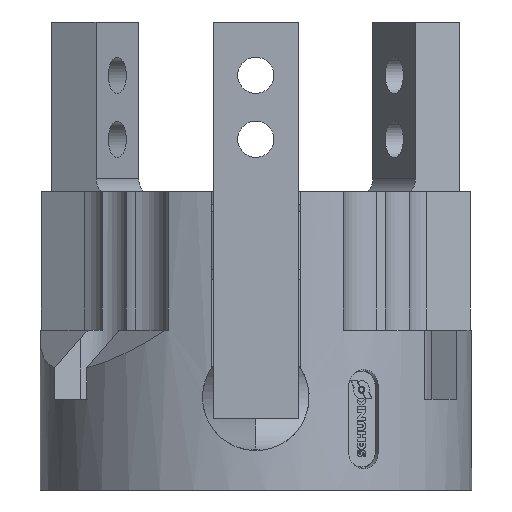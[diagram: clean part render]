
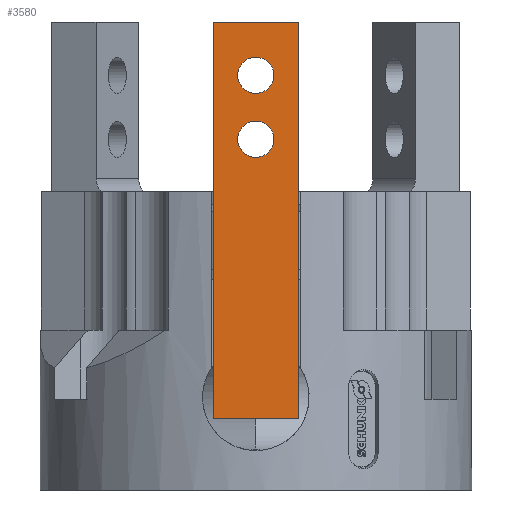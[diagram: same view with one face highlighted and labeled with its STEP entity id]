
A CAD part, left-side view. The second image highlights one B-rep face of the part: STEP entity #3580.
In plain terms, the highlighted planar face has unit normal (-1, 0, 0) as drawn and (0, -1, 0) by its records, which use the part's own axes.
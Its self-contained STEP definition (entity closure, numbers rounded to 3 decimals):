
#98=PLANE('',#4573);
#280=CIRCLE('',#4574,1.7);
#281=CIRCLE('',#4575,1.7);
#793=ORIENTED_EDGE('',*,*,#1587,.F.);
#794=ORIENTED_EDGE('',*,*,#1588,.F.);
#795=ORIENTED_EDGE('',*,*,#1589,.T.);
#796=ORIENTED_EDGE('',*,*,#1590,.F.);
#797=ORIENTED_EDGE('',*,*,#1591,.F.);
#798=ORIENTED_EDGE('',*,*,#1585,.T.);
#1585=EDGE_CURVE('',#2029,#2028,#2331,.T.);
#1587=EDGE_CURVE('',#2030,#2030,#280,.F.);
#1588=EDGE_CURVE('',#2031,#2031,#281,.F.);
#1589=EDGE_CURVE('',#2028,#2032,#2333,.T.);
#1590=EDGE_CURVE('',#2033,#2032,#2334,.T.);
#1591=EDGE_CURVE('',#2029,#2033,#2335,.T.);
#2028=VERTEX_POINT('',#6368);
#2029=VERTEX_POINT('',#6370);
#2030=VERTEX_POINT('',#6374);
#2031=VERTEX_POINT('',#6376);
#2032=VERTEX_POINT('',#6378);
#2033=VERTEX_POINT('',#6380);
#2331=LINE('',#6369,#2680);
#2333=LINE('',#6377,#2682);
#2334=LINE('',#6379,#2683);
#2335=LINE('',#6381,#2684);
#2680=VECTOR('',#5226,1000.);
#2682=VECTOR('',#5234,1000.);
#2683=VECTOR('',#5235,1000.);
#2684=VECTOR('',#5236,1000.);
#3046=EDGE_LOOP('',(#793));
#3047=EDGE_LOOP('',(#794));
#3048=EDGE_LOOP('',(#795,#796,#797,#798));
#3303=FACE_BOUND('',#3046,.T.);
#3304=FACE_BOUND('',#3047,.T.);
#3305=FACE_BOUND('',#3048,.T.);
#3580=ADVANCED_FACE('',(#3303,#3304,#3305),#98,.F.);
#4573=AXIS2_PLACEMENT_3D('',#6372,#5228,#5229);
#4574=AXIS2_PLACEMENT_3D('',#6373,#5230,#5231);
#4575=AXIS2_PLACEMENT_3D('',#6375,#5232,#5233);
#5226=DIRECTION('',(0.,0.,-1.));
#5228=DIRECTION('',(0.,1.,0.));
#5229=DIRECTION('',(0.,0.,1.));
#5230=DIRECTION('',(0.,1.,0.));
#5231=DIRECTION('',(0.,0.,1.));
#5232=DIRECTION('',(0.,1.,0.));
#5233=DIRECTION('',(0.,0.,1.));
#5234=DIRECTION('',(1.,0.,0.));
#5235=DIRECTION('',(0.,0.,-1.));
#5236=DIRECTION('',(1.,0.,0.));
#6368=CARTESIAN_POINT('',(0.,0.,-4.));
#6369=CARTESIAN_POINT('',(0.,0.,4.));
#6370=CARTESIAN_POINT('',(0.,0.,4.));
#6372=CARTESIAN_POINT('',(0.,0.,4.));
#6373=CARTESIAN_POINT('',(11.,0.,0.));
#6374=CARTESIAN_POINT('',(11.,0.,1.7));
#6375=CARTESIAN_POINT('',(5.,0.,0.));
#6376=CARTESIAN_POINT('',(5.,0.,1.7));
#6377=CARTESIAN_POINT('',(0.,0.,-4.));
#6378=CARTESIAN_POINT('',(37.2,0.,-4.));
#6379=CARTESIAN_POINT('',(37.2,0.,4.));
#6380=CARTESIAN_POINT('',(37.2,0.,4.));
#6381=CARTESIAN_POINT('',(0.,0.,4.));
